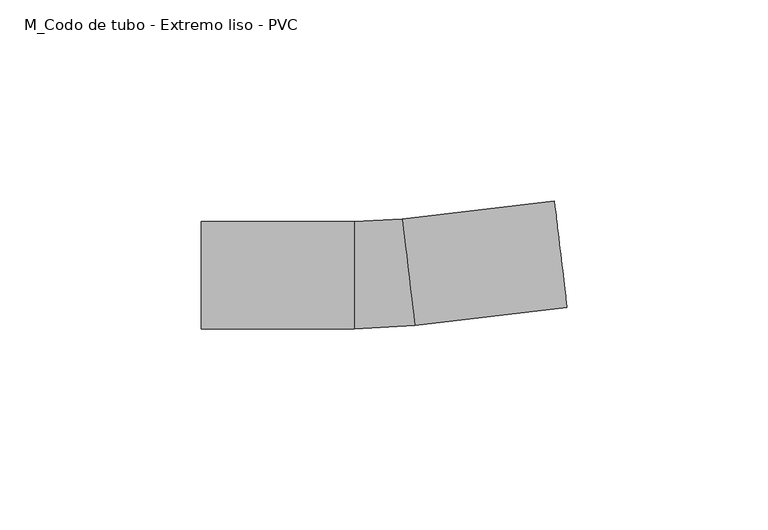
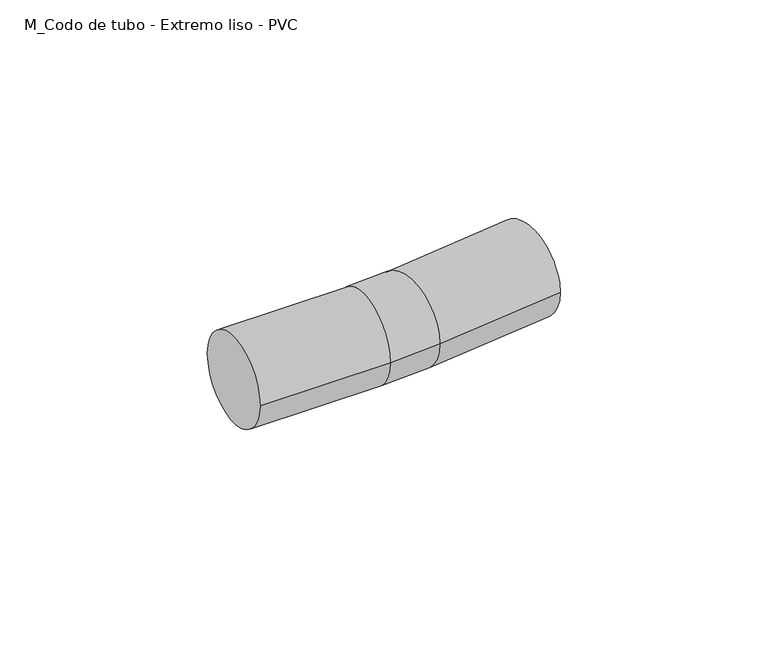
"""IFC4 building model written with IfcOpenShell, lengths in millimetres: cable carrier fitting geometry, M_Codo de tubo - Extremo liso - PVC : CODO ILUMINACION."""

from ifc_helpers import new_model, si_unit, point, frame, origin, place, context, project, spatial, circle_curve, ellipse_curve, trimmed, source, transform, mapped, element, save
from ifc_brep_helpers import plane_surface, cylinder_surface, revolved_surface, advanced_brep


def m_codo_de_tubo_extremo_liso_pvc_82e95901(model_context):
    return source(origin(), model_context, "Body", "AdvancedBrep", [
        advanced_brep(
        [(-44.8657846, -13.335, 0.0), (-44.8657846, 13.335, 0.0), (-6.7657846, -13.335, 0.0), (-6.7657846, 13.335, 0.0), (5.1453668, 14.0400594, 0.0), (8.2917087, -12.4436985, 0.0), (46.1256486, -7.9489244, 0.0), (42.9793067, 18.5348335, 0.0)],
        [
            (0, 1, circle_curve(frame((-44.8657846, 0.0, 0.0), z_axis=(-1.0, 0.0, 0.0), x_axis=(0.0, 1.0, 0.0)), 13.335)),
            (1, 0, circle_curve(frame((-44.8657846, 0.0, 0.0), z_axis=(-1.0, 0.0, 0.0), x_axis=(0.0, 1.0, 0.0)), 13.335)),
            (0, 2),
            (2, 3, circle_curve(frame((-6.7657846, 0.0, 0.0), z_axis=(-1.0, 0.0, 0.0), x_axis=(0.0, 1.0, 0.0)), 13.335)),
            (3, 1),
            (3, 2, circle_curve(frame((-6.7657846, 0.0, 0.0), z_axis=(-1.0, 0.0, 0.0), x_axis=(0.0, 1.0, 0.0)), 13.335)),
            (4, 3, circle_curve(frame((-6.7657846, 114.3, 0.0), z_axis=(0.0, 0.0, -1.0), x_axis=(0.0, -1.0, 0.0)), 100.965)),
            (2, 5, circle_curve(frame((-6.7657846, 114.3, 0.0), z_axis=(0.0, 0.0, 1.0), x_axis=(0.0, -1.0, 0.0)), 127.635)),
            (5, 4, circle_curve(frame((6.7185378, 0.7981804, 0.0), z_axis=(-0.9930167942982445, -0.11797307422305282, 0.0), x_axis=(-0.11797307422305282, 0.9930167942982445, 0.0)), 13.335)),
            (4, 5, circle_curve(frame((6.7185378, 0.7981804, 0.0), z_axis=(-0.9930167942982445, -0.11797307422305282, 0.0), x_axis=(-0.11797307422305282, 0.9930167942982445, 0.0)), 13.335)),
            (6, 7, circle_curve(frame((44.5524776, 5.2929545, 0.0), z_axis=(0.9930167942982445, 0.11797307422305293, 0.0), x_axis=(-0.11797307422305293, 0.9930167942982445, 0.0)), 13.335)),
            (7, 6, circle_curve(frame((44.5524776, 5.2929545, 0.0), z_axis=(0.9930167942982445, 0.11797307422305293, 0.0), x_axis=(-0.11797307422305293, 0.9930167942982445, 0.0)), 13.335)),
            (5, 6),
            (7, 4),
        ],
        [
            plane_surface(frame((-44.8657846, 0.0, 0.0), z_axis=(-1.0, 0.0, 0.0), x_axis=(0.0, 0.0, 1.0))),
            cylinder_surface(frame((-44.8657846, 0.0, 0.0), z_axis=(-1.0, 0.0, 0.0), x_axis=(0.0, 1.0, 0.0)), 13.335),
            revolved_surface(trimmed(ellipse_curve(frame((-6.7657846, 0.0, 0.0), z_axis=(-1.0, 0.0, 0.0), x_axis=(0.0, 1.0, 0.0)), 13.335, 13.335), [point((-6.7657846, -13.335, 0.0))], [point((-6.7657846, 13.335, 0.0))], True, "CARTESIAN"), (-6.7657846, 114.3, 0.0), (0.0, 0.0, 1.0)),
            revolved_surface(trimmed(ellipse_curve(frame((-6.7657846, 0.0, 0.0), z_axis=(-1.0, 0.0, 0.0), x_axis=(0.0, 1.0, 0.0)), 13.335, 13.335), [point((-6.7657846, 13.335, 0.0))], [point((-6.7657846, -13.335, 0.0))], True, "CARTESIAN"), (-6.7657846, 114.3, 0.0), (0.0, 0.0, 1.0)),
            plane_surface(frame((44.5524776, 5.2929545, 0.0), z_axis=(0.9930167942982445, 0.11797307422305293, 0.0), x_axis=(0.0, 0.0, 1.0))),
            cylinder_surface(frame((6.7185378, 0.7981804, 0.0), z_axis=(-0.9930167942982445, -0.11797307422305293, 0.0), x_axis=(-0.11797307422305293, 0.9930167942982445, 0.0)), 13.335),
        ],
        [
            (0, [[1, 2]]),
            (1, [[-1, 3, 4, 5]]),
            (1, [[-2, -5, 6, -3]]),
            (2, [[7, -4, 8, 9]]),
            (3, [[-8, -6, -7, 10]]),
            (4, [[11, 12]]),
            (5, [[-9, 13, -12, 14]]),
            (5, [[-10, -14, -11, -13]]),
        ],
    ),
    ])


if __name__ == "__main__":
    model = new_model("IFC4")
    model_context = context("Model", 3, world=origin())
    ifc_project = project(units=[si_unit("LENGTHUNIT", "METRE", prefix="MILLI")], contexts=[model_context])
    site = spatial("IfcSite", under=ifc_project)
    building = spatial("IfcBuilding", under=site)
    placement = place(None, origin())
    m_codo_de_tubo_extremo_liso_pvc_shape = m_codo_de_tubo_extremo_liso_pvc_82e95901(model_context)
    element("IfcCableCarrierFitting", 1, ObjectType="M_Codo de tubo - Extremo liso - PVC : CODO ILUMINACION", at=placement, inside=building, context=model_context, shape_type="MappedRepresentation", body=[
        mapped(m_codo_de_tubo_extremo_liso_pvc_shape, transform((0.0, 0.0, 0.0), x_axis=(1.0, 0.0, 0.0), y_axis=(0.0, 1.0, 0.0), z_axis=(0.0, 0.0, 1.0))),
    ])
    save(model, "model.ifc")
